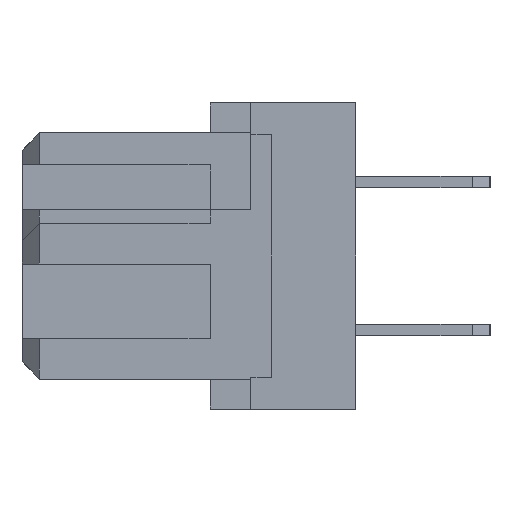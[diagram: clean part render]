
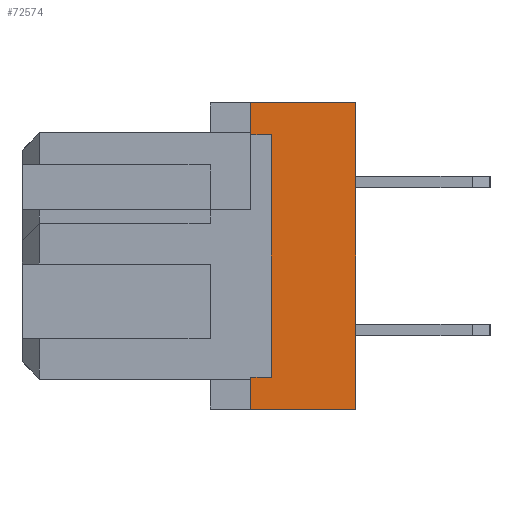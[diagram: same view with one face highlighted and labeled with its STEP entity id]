
A CAD part, left-side view. The second image highlights one B-rep face of the part: STEP entity #72574.
In plain terms, the highlighted planar face has unit normal (-1, 0, 0).
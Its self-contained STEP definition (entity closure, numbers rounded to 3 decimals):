
#663 = ORIENTED_EDGE ( 'NONE', *, *, #1760, .T. ) ;
#1036 = CARTESIAN_POINT ( 'NONE',  ( -47.5, 3.6, 4.15 ) ) ;
#1437 = VERTEX_POINT ( 'NONE', #5060 ) ;
#1760 = EDGE_CURVE ( 'NONE', #66178, #16609, #29021, .T. ) ;
#2880 = AXIS2_PLACEMENT_3D ( 'NONE', #65648, #31249, #71414 ) ;
#4817 = VERTEX_POINT ( 'NONE', #64232 ) ;
#5059 = ORIENTED_EDGE ( 'NONE', *, *, #37354, .T. ) ;
#5060 = CARTESIAN_POINT ( 'NONE',  ( -47.5, 3.6, -5.25 ) ) ;
#5825 = DIRECTION ( 'NONE',  ( 0., 1., 0. ) ) ;
#6024 = EDGE_LOOP ( 'NONE', ( #67433, #60105, #33014, #72221, #57940, #43044, #5059, #663 ) ) ;
#8088 = CARTESIAN_POINT ( 'NONE',  ( -47.5, 0., -5.25 ) ) ;
#8674 = LINE ( 'NONE', #1036, #66101 ) ;
#8942 = LINE ( 'NONE', #8088, #68137 ) ;
#10081 = CARTESIAN_POINT ( 'NONE',  ( -47.5, 2.9, -4.15 ) ) ;
#12026 = VECTOR ( 'NONE', #5825, 1000. ) ;
#12538 = EDGE_CURVE ( 'NONE', #38866, #44583, #8942, .T. ) ;
#13577 = CARTESIAN_POINT ( 'NONE',  ( -47.5, 0., -5.25 ) ) ;
#14098 = VECTOR ( 'NONE', #39697, 1000. ) ;
#14972 = CARTESIAN_POINT ( 'NONE',  ( -47.5, 3.6, -5.25 ) ) ;
#15801 = DIRECTION ( 'NONE',  ( 0., 0., -1. ) ) ;
#16284 = VECTOR ( 'NONE', #15801, 1000. ) ;
#16609 = VERTEX_POINT ( 'NONE', #33534 ) ;
#19668 = DIRECTION ( 'NONE',  ( 0., 0., 1. ) ) ;
#20305 = CARTESIAN_POINT ( 'NONE',  ( -47.5, 5., 5.25 ) ) ;
#20882 = CARTESIAN_POINT ( 'NONE',  ( -47.5, 2.9, -4.15 ) ) ;
#24060 = EDGE_CURVE ( 'NONE', #1437, #38866, #59891, .T. ) ;
#24168 = EDGE_CURVE ( 'NONE', #40058, #4817, #60731, .T. ) ;
#26256 = EDGE_CURVE ( 'NONE', #47167, #44583, #36371, .T. ) ;
#29021 = LINE ( 'NONE', #32456, #12026 ) ;
#31249 = DIRECTION ( 'NONE',  ( 1., 0., 0. ) ) ;
#32114 = EDGE_CURVE ( 'NONE', #16609, #1437, #38658, .T. ) ;
#32456 = CARTESIAN_POINT ( 'NONE',  ( -47.5, -9.716, -4.15 ) ) ;
#32592 = DIRECTION ( 'NONE',  ( 0., 1., 0. ) ) ;
#33014 = ORIENTED_EDGE ( 'NONE', *, *, #12538, .T. ) ;
#33534 = CARTESIAN_POINT ( 'NONE',  ( -47.5, 3.6, -4.15 ) ) ;
#33954 = CARTESIAN_POINT ( 'NONE',  ( -47.5, 5., -5.25 ) ) ;
#36371 = LINE ( 'NONE', #20305, #49856 ) ;
#37354 = EDGE_CURVE ( 'NONE', #40058, #66178, #62127, .T. ) ;
#37568 = DIRECTION ( 'NONE',  ( 0., -1., 0. ) ) ;
#38658 = LINE ( 'NONE', #14972, #69155 ) ;
#38866 = VERTEX_POINT ( 'NONE', #13577 ) ;
#39697 = DIRECTION ( 'NONE',  ( 0., -1., 0. ) ) ;
#40058 = VERTEX_POINT ( 'NONE', #51402 ) ;
#43044 = ORIENTED_EDGE ( 'NONE', *, *, #24168, .F. ) ;
#44583 = VERTEX_POINT ( 'NONE', #55257 ) ;
#46985 = DIRECTION ( 'NONE',  ( 0., 0., -1. ) ) ;
#47167 = VERTEX_POINT ( 'NONE', #68428 ) ;
#49856 = VECTOR ( 'NONE', #37568, 1000. ) ;
#51402 = CARTESIAN_POINT ( 'NONE',  ( -47.5, 2.9, 4.15 ) ) ;
#55133 = DIRECTION ( 'NONE',  ( 0., 0., -1. ) ) ;
#55257 = CARTESIAN_POINT ( 'NONE',  ( -47.5, 0., 5.25 ) ) ;
#55363 = VECTOR ( 'NONE', #32592, 1000. ) ;
#57940 = ORIENTED_EDGE ( 'NONE', *, *, #61168, .T. ) ;
#59891 = LINE ( 'NONE', #33954, #14098 ) ;
#60105 = ORIENTED_EDGE ( 'NONE', *, *, #24060, .T. ) ;
#60731 = LINE ( 'NONE', #72730, #55363 ) ;
#61168 = EDGE_CURVE ( 'NONE', #47167, #4817, #8674, .T. ) ;
#62127 = LINE ( 'NONE', #10081, #16284 ) ;
#64232 = CARTESIAN_POINT ( 'NONE',  ( -47.5, 3.6, 4.15 ) ) ;
#64337 = FACE_OUTER_BOUND ( 'NONE', #6024, .T. ) ;
#65648 = CARTESIAN_POINT ( 'NONE',  ( -47.5, 5., -5.25 ) ) ;
#66101 = VECTOR ( 'NONE', #46985, 1000. ) ;
#66178 = VERTEX_POINT ( 'NONE', #20882 ) ;
#67433 = ORIENTED_EDGE ( 'NONE', *, *, #32114, .T. ) ;
#68137 = VECTOR ( 'NONE', #19668, 1000. ) ;
#68428 = CARTESIAN_POINT ( 'NONE',  ( -47.5, 3.6, 5.25 ) ) ;
#69155 = VECTOR ( 'NONE', #55133, 1000. ) ;
#71164 = PLANE ( 'NONE',  #2880 ) ;
#71414 = DIRECTION ( 'NONE',  ( 0., 0., -1. ) ) ;
#72221 = ORIENTED_EDGE ( 'NONE', *, *, #26256, .F. ) ;
#72574 = ADVANCED_FACE ( 'NONE', ( #64337 ), #71164, .F. ) ;
#72730 = CARTESIAN_POINT ( 'NONE',  ( -47.5, -9.716, 4.15 ) ) ;
